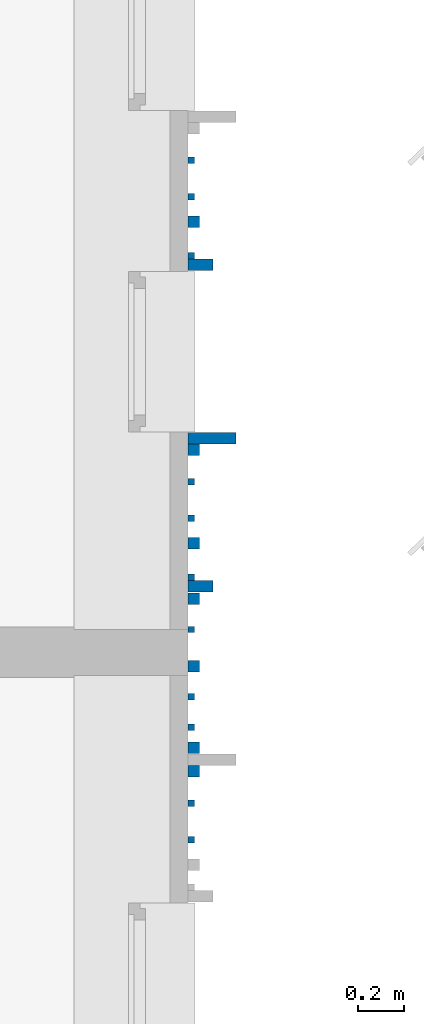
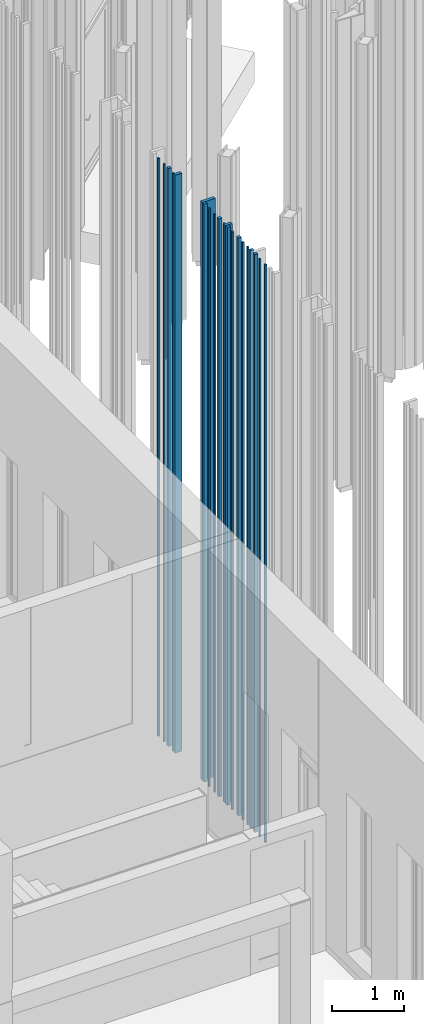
# One storey, part 188 of 390: 21 walls.
"""IFC2X3 building model written with IfcOpenShell, lengths in millimetres."""

from ifc_helpers import new_model, entity, si_unit, converted_unit, derived_unit, money_unit, direction, frame, origin_with_axes, place, context, subcontext, project, spatial, faceted_brep, material, type_object, element, save


model = new_model("IFC2X3")

# Units and contexts
model_context = context("Model", 3, precision=1e-05, world=origin_with_axes(), true_north=direction((0.0, 1.0)))
body_context = subcontext(model_context, "Body", "Model", "MODEL_VIEW")
ifc_project = project(units=[si_unit("LENGTHUNIT", "METRE", prefix="MILLI"), si_unit("AREAUNIT", "SQUARE_METRE"), si_unit("VOLUMEUNIT", "CUBIC_METRE"), converted_unit("PLANEANGLEUNIT", "DEGREE", entity("IfcPlaneAngleMeasure", 0.0174532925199), si_unit("PLANEANGLEUNIT", "RADIAN"), dimensions=[0, 0, 0, 0, 0, 0, 0]), si_unit("SOLIDANGLEUNIT", "STERADIAN"), money_unit("EUR"), converted_unit("TIMEUNIT", "Year", entity("IfcTimeMeasure", 31556926.0), si_unit("TIMEUNIT", "SECOND"), dimensions=[0, 0, 1, 0, 0, 0, 0]), si_unit("MASSUNIT", "GRAM", prefix="KILO"), si_unit("THERMODYNAMICTEMPERATUREUNIT", "DEGREE_CELSIUS"), si_unit("LUMINOUSINTENSITYUNIT", "LUMEN"), si_unit("ENERGYUNIT", "JOULE", prefix="MEGA"), derived_unit("THERMALCONDUCTANCEUNIT", [(si_unit("POWERUNIT", "WATT"), 1), (si_unit("LENGTHUNIT", "METRE"), -1), (si_unit("THERMODYNAMICTEMPERATUREUNIT", "KELVIN"), -1)]), derived_unit("SPECIFICHEATCAPACITYUNIT", [(si_unit("ENERGYUNIT", "JOULE"), 1), (si_unit("MASSUNIT", "GRAM", prefix="KILO"), -1), (si_unit("THERMODYNAMICTEMPERATUREUNIT", "KELVIN"), -1)]), derived_unit("MASSDENSITYUNIT", [(si_unit("MASSUNIT", "GRAM", prefix="KILO"), 1), (si_unit("VOLUMEUNIT", "CUBIC_METRE"), -1)])], contexts=[model_context])

# Site, building, storey
site_placement = place(None, origin_with_axes())
site = spatial("IfcSite", under=ifc_project, at=site_placement, Name="Site", CompositionType="ELEMENT")
building_placement = place(site_placement, origin_with_axes())
building = spatial("IfcBuilding", under=site, at=building_placement, Name="Building", CompositionType="ELEMENT")
storey_placement = place(building_placement, origin_with_axes())
storey = spatial("IfcBuildingStorey", under=building, at=storey_placement, Name="1 korrus", CompositionType="ELEMENT", Elevation=0.0)

# Walls
ifc_material = material(Name="Site specified")
wall_type = type_object("IfcWallType", Name="Puitfassaadi ribistik", PredefinedType="NOTDEFINED")
wall_1_placement = place(storey_placement, frame((139841.499998, 58728.0000087, 100.000000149), z_axis=(0.0, 0.0, 1.0), x_axis=(0.0, -1.0, 0.0)))
element("IfcWall", 1, at=wall_1_placement, inside=storey, type_object=wall_type, material=ifc_material, Name="Site specified", context=body_context, shape_type="Brep", body=[
    faceted_brep([(-25.0, -54.5, 9764.99999985), (-25.0, -54.5, 0.0), (25.0, -54.5, 0.0), (25.0, -54.5, 9764.99999985), (-25.0, 54.5, 9764.99999985), (-25.0, 54.5, 0.0), (25.0, 54.5, 0.0), (25.0, 54.5, 9764.99999985)], [[[0, 1, 2, 3]], [[4, 5, 1, 0]], [[2, 1, 5, 6]], [[3, 2, 6, 7]], [[4, 0, 3, 7]], [[7, 6, 5, 4]]]),
])
for number, where, z_axis, x_axis, name in (
    (2, (139800.999998, 58767.0000087, 100.000000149), (0.0, 0.0, 1.0), (0.0, -1.0, 0.0), "Site specified"),
    (3, (139800.999998, 59025.0000087, 100.000000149), (0.0, 0.0, 1.0), (0.0, -1.0, 0.0), "Site specified"),
):
    element("IfcWall", number, at=place(storey_placement, frame(where, z_axis=z_axis, x_axis=x_axis)), inside=storey, type_object=wall_type, material=ifc_material, Name=name, context=body_context, shape_type="Brep", body=[
        faceted_brep([(-14.0, -14.0, 9764.99999985), (-14.0, -14.0, 0.0), (14.0, -14.0, 0.0), (14.0, -14.0, 9764.99999985), (-14.0, 14.0, 9764.99999985), (-14.0, 14.0, 0.0), (14.0, 14.0, 0.0), (14.0, 14.0, 9764.99999985)], [[[0, 1, 2, 3]], [[4, 5, 1, 0]], [[2, 1, 5, 6]], [[3, 2, 6, 7]], [[4, 0, 3, 7]], [[7, 6, 5, 4]]]),
    ])
wall_2_placement = place(storey_placement, frame((139811.999998, 58916.0000087, 100.000000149), z_axis=(0.0, 0.0, 1.0), x_axis=(0.0, -1.0, 0.0)))
element("IfcWall", 4, at=wall_2_placement, inside=storey, type_object=wall_type, material=ifc_material, Name="Site specified", context=body_context, shape_type="Brep", body=[
    faceted_brep([(-25.0, -25.0, 9764.99999985), (-25.0, -25.0, 0.0), (25.0, -25.0, 0.0), (25.0, -25.0, 9764.99999985), (-25.0, 25.0, 9764.99999985), (-25.0, 25.0, 0.0), (25.0, 25.0, 0.0), (25.0, 25.0, 9764.99999985)], [[[0, 1, 2, 3]], [[4, 5, 1, 0]], [[2, 1, 5, 6]], [[3, 2, 6, 7]], [[4, 0, 3, 7]], [[7, 6, 5, 4]]]),
])
wall_3_placement = place(storey_placement, frame((139800.999998, 59183.0000087, 100.000000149), z_axis=(0.0, 0.0, 1.0), x_axis=(0.0, -1.0, 0.0)))
element("IfcWall", 5, at=wall_3_placement, inside=storey, type_object=wall_type, material=ifc_material, Name="Site specified", context=body_context, shape_type="Brep", body=[
    faceted_brep([(-14.0, -14.0, 9764.99999985), (-14.0, -14.0, 0.0), (14.0, -14.0, 0.0), (14.0, -14.0, 9764.99999985), (-14.0, 14.0, 9764.99999985), (-14.0, 14.0, 0.0), (14.0, 14.0, 0.0), (14.0, 14.0, 9764.99999985)], [[[0, 1, 2, 3]], [[4, 5, 1, 0]], [[2, 1, 5, 6]], [[3, 2, 6, 7]], [[4, 0, 3, 7]], [[7, 6, 5, 4]]]),
])
wall_4_placement = place(storey_placement, frame((139811.999998, 57275.0000087, 100.000000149), z_axis=(0.0, 0.0, 1.0), x_axis=(0.0, -1.0, 0.0)))
element("IfcWall", 6, at=wall_4_placement, inside=storey, type_object=wall_type, material=ifc_material, Name="Site specified", context=body_context, shape_type="Brep", body=[
    faceted_brep([(-25.0, -25.0, 9764.99999985), (-25.0, -25.0, 0.0), (25.0, -25.0, 0.0), (25.0, -25.0, 9764.99999985), (-25.0, 25.0, 9764.99999985), (-25.0, 25.0, 0.0), (25.0, 25.0, 0.0), (25.0, 25.0, 9764.99999985)], [[[0, 1, 2, 3]], [[4, 5, 1, 0]], [[2, 1, 5, 6]], [[3, 2, 6, 7]], [[4, 0, 3, 7]], [[7, 6, 5, 4]]]),
])
wall_5_placement = place(storey_placement, frame((139800.999998, 57140.0000087, 100.000000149), z_axis=(0.0, 0.0, 1.0), x_axis=(0.0, -1.0, 0.0)))
element("IfcWall", 7, at=wall_5_placement, inside=storey, type_object=wall_type, material=ifc_material, Name="Site specified", context=body_context, shape_type="Brep", body=[
    faceted_brep([(14.0, -14.0, 9764.99999985), (-14.0, -14.0, 9764.99999985), (-14.0, -14.0, 0.0), (14.0, -14.0, 0.0), (14.0, 14.0, 9764.99999985), (-14.0, 14.0, 9764.99999985), (-14.0, 14.0, 0.0), (14.0, 14.0, 0.0)], [[[0, 1, 2, 3]], [[4, 5, 1, 0]], [[1, 5, 6, 2]], [[7, 3, 2, 6]], [[4, 0, 3, 7]], [[5, 4, 7, 6]]]),
])
wall_6_placement = place(storey_placement, frame((139800.999998, 56383.0000087, 100.000000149), z_axis=(0.0, 0.0, 1.0), x_axis=(0.0, -1.0, 0.0)))
element("IfcWall", 8, at=wall_6_placement, inside=storey, type_object=wall_type, material=ifc_material, Name="Site specified", context=body_context, shape_type="Brep", body=[
    faceted_brep([(-14.0, -14.0, 9764.99999985), (-14.0, -14.0, 0.0), (14.0, -14.0, 0.0), (14.0, -14.0, 9764.99999985), (-14.0, 14.0, 9764.99999985), (-14.0, 14.0, 0.0), (14.0, 14.0, 0.0), (14.0, 14.0, 9764.99999985)], [[[0, 1, 2, 3]], [[4, 5, 1, 0]], [[2, 1, 5, 6]], [[3, 2, 6, 7]], [[4, 0, 3, 7]], [[7, 6, 5, 4]]]),
])
wall_7_placement = place(storey_placement, frame((139811.999998, 56522.0000087, 100.000000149), z_axis=(0.0, 0.0, 1.0), x_axis=(0.0, -1.0, 0.0)))
element("IfcWall", 9, at=wall_7_placement, inside=storey, type_object=wall_type, material=ifc_material, Name="Site specified", context=body_context, shape_type="Brep", body=[
    faceted_brep([(-25.0, -25.0, 9764.99999985), (-25.0, -25.0, 0.0), (25.0, -25.0, 0.0), (25.0, -25.0, 9764.99999985), (-25.0, 25.0, 9764.99999985), (-25.0, 25.0, 0.0), (25.0, 25.0, 0.0), (25.0, 25.0, 9764.99999985)], [[[0, 1, 2, 3]], [[4, 5, 1, 0]], [[2, 1, 5, 6]], [[3, 2, 6, 7]], [[4, 0, 3, 7]], [[7, 6, 5, 4]]]),
])
wall_8_placement = place(storey_placement, frame((139800.999998, 56225.0000087, 100.000000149), z_axis=(0.0, 0.0, 1.0), x_axis=(0.0, -1.0, 0.0)))
element("IfcWall", 10, at=wall_8_placement, inside=storey, type_object=wall_type, material=ifc_material, Name="Site specified", context=body_context, shape_type="Brep", body=[
    faceted_brep([(-14.0, -14.0, 9764.99999985), (-14.0, -14.0, 0.0), (14.0, -14.0, 0.0), (14.0, -14.0, 9764.99999985), (-14.0, 14.0, 9764.99999985), (-14.0, 14.0, 0.0), (14.0, 14.0, 0.0), (14.0, 14.0, 9764.99999985)], [[[0, 1, 2, 3]], [[4, 5, 1, 0]], [[2, 1, 5, 6]], [[3, 2, 6, 7]], [[4, 0, 3, 7]], [[7, 6, 5, 4]]]),
])
wall_9_placement = place(storey_placement, frame((139891.499998, 57972.0000087, 100.000000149), z_axis=(0.0, 0.0, 1.0), x_axis=(0.0, -1.0, 0.0)))
element("IfcWall", 11, at=wall_9_placement, inside=storey, type_object=wall_type, material=ifc_material, Name="Site specified", context=body_context, shape_type="Brep", body=[
    faceted_brep([(-25.0, -104.5, 9764.99999985), (-25.0, -104.5, 0.0), (25.0, -104.5, 0.0), (25.0, -104.5, 9764.99999985), (-25.0, 104.5, 9764.99999985), (-25.0, 104.5, 0.0), (25.0, 104.5, 0.0), (25.0, 104.5, 9764.99999985)], [[[0, 1, 2, 3]], [[4, 5, 1, 0]], [[2, 1, 5, 6]], [[3, 2, 6, 7]], [[4, 0, 3, 7]], [[7, 6, 5, 4]]]),
])
wall_10_placement = place(storey_placement, frame((139841.499998, 57328.0000087, 100.000000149), z_axis=(0.0, 0.0, 1.0), x_axis=(0.0, -1.0, 0.0)))
element("IfcWall", 12, at=wall_10_placement, inside=storey, type_object=wall_type, material=ifc_material, Name="Site specified", context=body_context, shape_type="Brep", body=[
    faceted_brep([(-25.0, -54.5, 9764.99999985), (-25.0, -54.5, 0.0), (25.0, -54.5, 0.0), (25.0, -54.5, 9764.99999985), (-25.0, 54.5, 9764.99999985), (-25.0, 54.5, 0.0), (25.0, 54.5, 0.0), (25.0, 54.5, 9764.99999985)], [[[0, 1, 2, 3]], [[4, 5, 1, 0]], [[2, 1, 5, 6]], [[3, 2, 6, 7]], [[4, 0, 3, 7]], [[7, 6, 5, 4]]]),
])
for number, where, z_axis, x_axis, name in (
    (13, (139800.999998, 57367.0000087, 100.000000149), (0.0, 0.0, 1.0), (0.0, -1.0, 0.0), "Site specified"),
    (14, (139800.999998, 57625.0000087, 100.000000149), (0.0, 0.0, 1.0), (0.0, -1.0, 0.0), "Site specified"),
):
    element("IfcWall", number, at=place(storey_placement, frame(where, z_axis=z_axis, x_axis=x_axis)), inside=storey, type_object=wall_type, material=ifc_material, Name=name, context=body_context, shape_type="Brep", body=[
        faceted_brep([(-14.0, -14.0, 9764.99999985), (-14.0, -14.0, 0.0), (14.0, -14.0, 0.0), (14.0, -14.0, 9764.99999985), (-14.0, 14.0, 9764.99999985), (-14.0, 14.0, 0.0), (14.0, 14.0, 0.0), (14.0, 14.0, 9764.99999985)], [[[0, 1, 2, 3]], [[4, 5, 1, 0]], [[2, 1, 5, 6]], [[3, 2, 6, 7]], [[4, 0, 3, 7]], [[7, 6, 5, 4]]]),
    ])
for number, where, z_axis, x_axis, name in (
    (15, (139811.999998, 57922.0000087, 100.000000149), (0.0, 0.0, 1.0), (0.0, -1.0, 0.0), "Site specified"),
    (16, (139811.999998, 57516.0000087, 100.000000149), (0.0, 0.0, 1.0), (0.0, -1.0, 0.0), "Site specified"),
):
    element("IfcWall", number, at=place(storey_placement, frame(where, z_axis=z_axis, x_axis=x_axis)), inside=storey, type_object=wall_type, material=ifc_material, Name=name, context=body_context, shape_type="Brep", body=[
        faceted_brep([(-25.0, -25.0, 9764.99999985), (-25.0, -25.0, 0.0), (25.0, -25.0, 0.0), (25.0, -25.0, 9764.99999985), (-25.0, 25.0, 9764.99999985), (-25.0, 25.0, 0.0), (25.0, 25.0, 0.0), (25.0, 25.0, 9764.99999985)], [[[0, 1, 2, 3]], [[4, 5, 1, 0]], [[2, 1, 5, 6]], [[3, 2, 6, 7]], [[4, 0, 3, 7]], [[7, 6, 5, 4]]]),
    ])
wall_11_placement = place(storey_placement, frame((139800.999998, 57783.0000087, 100.000000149), z_axis=(0.0, 0.0, 1.0), x_axis=(0.0, -1.0, 0.0)))
element("IfcWall", 17, at=wall_11_placement, inside=storey, type_object=wall_type, material=ifc_material, Name="Site specified", context=body_context, shape_type="Brep", body=[
    faceted_brep([(-14.0, -14.0, 9764.99999985), (-14.0, -14.0, 0.0), (14.0, -14.0, 0.0), (14.0, -14.0, 9764.99999985), (-14.0, 14.0, 9764.99999985), (-14.0, 14.0, 0.0), (14.0, 14.0, 0.0), (14.0, 14.0, 9764.99999985)], [[[0, 1, 2, 3]], [[4, 5, 1, 0]], [[2, 1, 5, 6]], [[3, 2, 6, 7]], [[4, 0, 3, 7]], [[7, 6, 5, 4]]]),
])
wall_12_placement = place(storey_placement, frame((139811.999998, 56625.0000087, 100.000000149), z_axis=(0.0, 0.0, 1.0), x_axis=(0.0, -1.0, 0.0)))
element("IfcWall", 18, at=wall_12_placement, inside=storey, type_object=wall_type, material=ifc_material, Name="Site specified", context=body_context, shape_type="Brep", body=[
    faceted_brep([(-25.0, -25.0, 9764.99999985), (-25.0, -25.0, 0.0), (25.0, -25.0, 0.0), (25.0, -25.0, 9764.99999985), (-25.0, 25.0, 9764.99999985), (-25.0, 25.0, 0.0), (25.0, 25.0, 0.0), (25.0, 25.0, 9764.99999985)], [[[0, 1, 2, 3]], [[4, 5, 1, 0]], [[2, 1, 5, 6]], [[3, 2, 6, 7]], [[4, 0, 3, 7]], [[7, 6, 5, 4]]]),
])
for number, where, z_axis, x_axis, name in (
    (19, (139800.999998, 56714.0000087, 100.000000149), (0.0, 0.0, 1.0), (0.0, -1.0, 0.0), "Site specified"),
    (20, (139800.999998, 56847.0000087, 100.000000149), (0.0, 0.0, 1.0), (0.0, -1.0, 0.0), "Site specified"),
):
    element("IfcWall", number, at=place(storey_placement, frame(where, z_axis=z_axis, x_axis=x_axis)), inside=storey, type_object=wall_type, material=ifc_material, Name=name, context=body_context, shape_type="Brep", body=[
        faceted_brep([(-14.0, -14.0, 9764.99999985), (-14.0, -14.0, 0.0), (14.0, -14.0, 0.0), (14.0, -14.0, 9764.99999985), (-14.0, 14.0, 9764.99999985), (-14.0, 14.0, 0.0), (14.0, 14.0, 0.0), (14.0, 14.0, 9764.99999985)], [[[0, 1, 2, 3]], [[4, 5, 1, 0]], [[2, 1, 5, 6]], [[3, 2, 6, 7]], [[4, 0, 3, 7]], [[7, 6, 5, 4]]]),
    ])
wall_13_placement = place(storey_placement, frame((139811.999998, 56981.0000087, 100.000000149), z_axis=(0.0, 0.0, 1.0), x_axis=(0.0, -1.0, 0.0)))
element("IfcWall", 21, at=wall_13_placement, inside=storey, type_object=wall_type, material=ifc_material, Name="Site specified", context=body_context, shape_type="Brep", body=[
    faceted_brep([(25.0, -25.0, 9764.99999985), (-25.0, -25.0, 9764.99999985), (-25.0, -25.0, 0.0), (25.0, -25.0, 0.0), (25.0, 25.0, 9764.99999985), (-25.0, 25.0, 9764.99999985), (-25.0, 25.0, 0.0), (25.0, 25.0, 0.0)], [[[0, 1, 2, 3]], [[4, 5, 1, 0]], [[1, 5, 6, 2]], [[7, 3, 2, 6]], [[4, 0, 3, 7]], [[5, 4, 7, 6]]]),
])

save(model, "model.ifc")
